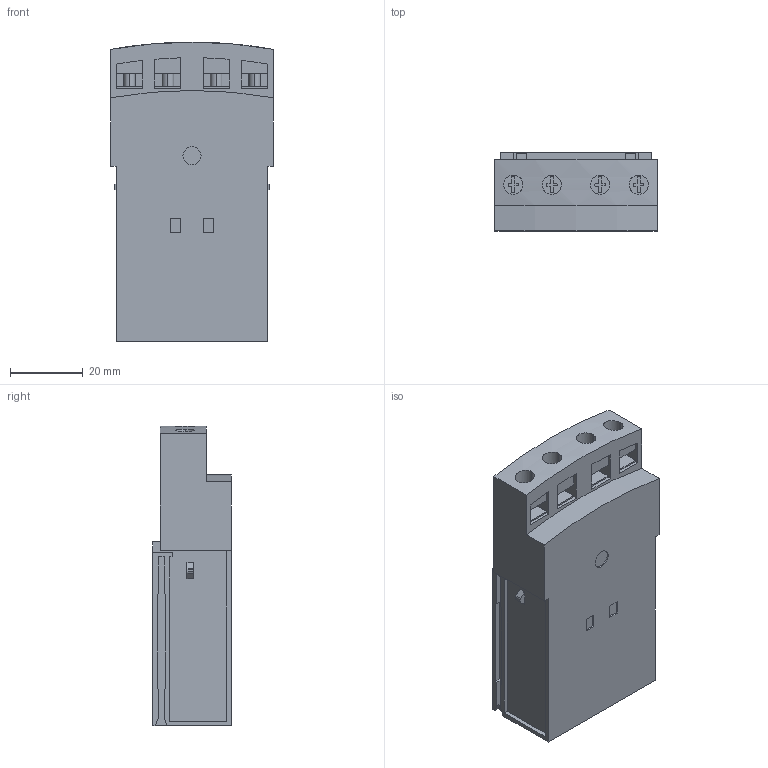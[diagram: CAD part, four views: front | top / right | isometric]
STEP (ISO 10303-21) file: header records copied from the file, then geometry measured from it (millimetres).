
FILE_DESCRIPTION((''),'2;1');
FILE_NAME('1668666326751_ASM','2022-11-17T11:55:45',('SESA540900'),('Schneider-Electric'),'CREO PARAMETRIC BY PTC INC, 2021284','CREO PARAMETRIC BY PTC INC, 2021284','');
FILE_SCHEMA(('AP242_MANAGED_MODEL_BASED_3D_ENGINEERING_MIM_LF { 1 0 10303 442 1 1 4 }'));
Length unit declared in the file: millimetre
Products named in the file (4): EMPTYNODE_1668666326782_ASM; LUFN02-3D_LUFN02; LUFN02-3D_ASM; 1668666326751_ASM
Assembly tree (3 placements, depth 3):
  1668666326751_ASM
    EMPTYNODE_1668666326782_ASM
    LUFN02-3D_ASM
      LUFN02-3D_LUFN02
Bounding box: 44.8 x 21.6 x 82.5 mm (x, y, z)
Volume: 64989.5 mm3; surface area: 14271.8 mm2
Topology: 1 solids, 1 shells, 260 faces, 705 edges, 469 vertices
Faces by surface type: plane 223, cylinder 37
Entity records: 11352 total; most frequent: CARTESIAN_POINT 1560, ORIENTED_EDGE 1410, DIRECTION 1299, PRESENTATION_STYLE_ASSIGNMENT 778, STYLED_ITEM 706, CURVE_STYLE 705, EDGE_CURVE 705, VECTOR 631
